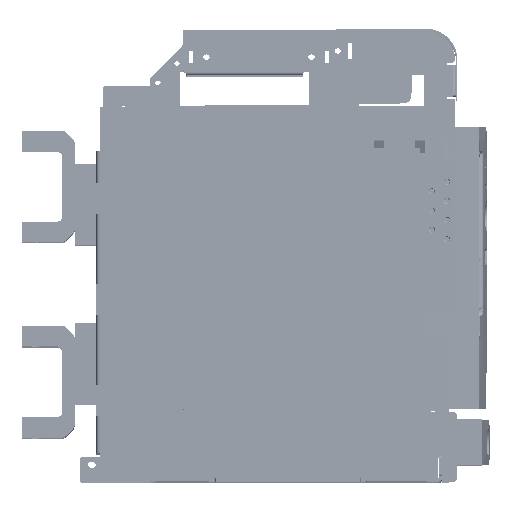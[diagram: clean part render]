
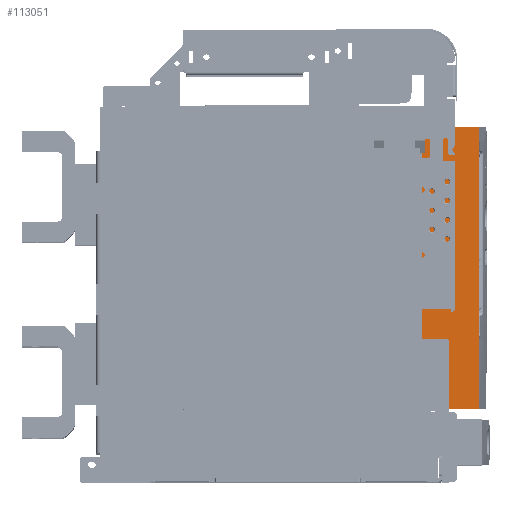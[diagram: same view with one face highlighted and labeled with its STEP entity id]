
A CAD part, top view. The second image highlights one B-rep face of the part: STEP entity #113051.
In plain terms, the highlighted planar face has unit normal (0.009, 0, 1).
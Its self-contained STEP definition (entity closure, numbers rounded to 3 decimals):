
#25741 = CARTESIAN_POINT ( 'NONE',  ( -13.503, 55.027, 153.43 ) ) ;
#49639 = LINE ( 'NONE', #146790, #203071 ) ;
#52953 = CARTESIAN_POINT ( 'NONE',  ( -70.153, 53.439, 153.924 ) ) ;
#69772 = PLANE ( 'NONE',  #173456 ) ;
#73883 = DIRECTION ( 'NONE',  ( 0., 1., 0. ) ) ;
#78573 = DIRECTION ( 'NONE',  ( -1., 0.009, 0.009 ) ) ;
#96276 = CARTESIAN_POINT ( 'NONE',  ( -13.503, 333.151, 153.43 ) ) ;
#113051 = ADVANCED_FACE ( 'NONE', ( #259546 ), #69772, .T. ) ;
#130791 = ORIENTED_EDGE ( 'NONE', *, *, #153786, .T. ) ;
#131093 = LINE ( 'NONE', #240977, #198995 ) ;
#131252 = EDGE_LOOP ( 'NONE', ( #293387, #289641, #279912, #130791 ) ) ;
#146790 = CARTESIAN_POINT ( 'NONE',  ( -13.503, 53.439, 153.43 ) ) ;
#153786 = EDGE_CURVE ( 'NONE', #283936, #243273, #49639, .T. ) ;
#165813 = DIRECTION ( 'NONE',  ( 0., 1., 0. ) ) ;
#173190 = DIRECTION ( 'NONE',  ( -1., -0.009, 0.009 ) ) ;
#173456 = AXIS2_PLACEMENT_3D ( 'NONE', #252338, #273324, #275328 ) ;
#175360 = CARTESIAN_POINT ( 'NONE',  ( -135.702, 334.217, 154.496 ) ) ;
#182416 = EDGE_CURVE ( 'NONE', #243273, #197361, #236408, .T. ) ;
#197361 = VERTEX_POINT ( 'NONE', #275977 ) ;
#198995 = VECTOR ( 'NONE', #173190, 1000. ) ;
#203071 = VECTOR ( 'NONE', #165813, 1000. ) ;
#211195 = VECTOR ( 'NONE', #73883, 1000. ) ;
#212807 = EDGE_CURVE ( 'NONE', #263568, #197361, #221745, .T. ) ;
#218422 = VECTOR ( 'NONE', #78573, 1000. ) ;
#221745 = LINE ( 'NONE', #52953, #211195 ) ;
#236408 = LINE ( 'NONE', #175360, #218422 ) ;
#240977 = CARTESIAN_POINT ( 'NONE',  ( -136.87, 53.95, 154.507 ) ) ;
#243273 = VERTEX_POINT ( 'NONE', #96276 ) ;
#252338 = CARTESIAN_POINT ( 'NONE',  ( -138.153, 53.439, 154.518 ) ) ;
#259546 = FACE_OUTER_BOUND ( 'NONE', #131252, .T. ) ;
#263568 = VERTEX_POINT ( 'NONE', #277806 ) ;
#267246 = EDGE_CURVE ( 'NONE', #283936, #263568, #131093, .T. ) ;
#273324 = DIRECTION ( 'NONE',  ( 0.009, 0., 1. ) ) ;
#275328 = DIRECTION ( 'NONE',  ( 0., 1., 0. ) ) ;
#275977 = CARTESIAN_POINT ( 'NONE',  ( -70.153, 333.645, 153.924 ) ) ;
#277806 = CARTESIAN_POINT ( 'NONE',  ( -70.153, 54.532, 153.924 ) ) ;
#279912 = ORIENTED_EDGE ( 'NONE', *, *, #267246, .F. ) ;
#283936 = VERTEX_POINT ( 'NONE', #25741 ) ;
#289641 = ORIENTED_EDGE ( 'NONE', *, *, #212807, .F. ) ;
#293387 = ORIENTED_EDGE ( 'NONE', *, *, #182416, .T. ) ;
